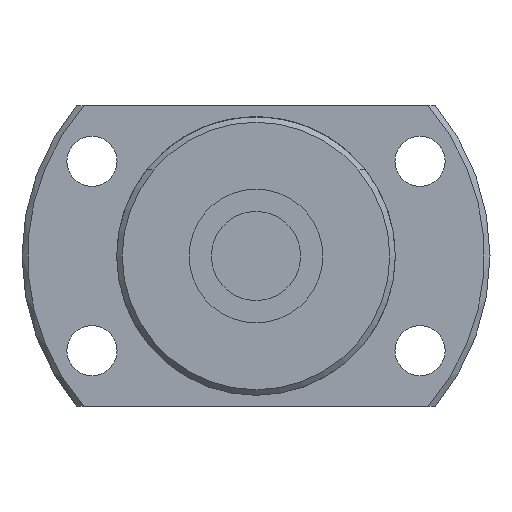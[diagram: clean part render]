
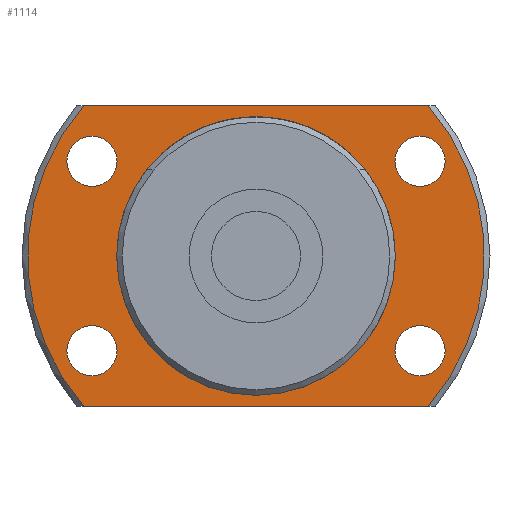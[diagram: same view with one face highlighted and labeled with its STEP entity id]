
A CAD part, left-side view. The second image highlights one B-rep face of the part: STEP entity #1114.
In plain terms, the highlighted planar face has unit normal (-1, 0, 0).
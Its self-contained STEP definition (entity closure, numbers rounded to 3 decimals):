
#93=LINE('',#1901,#163);
#94=LINE('',#1905,#164);
#163=VECTOR('',#1533,1000.);
#164=VECTOR('',#1536,1000.);
#331=ORIENTED_EDGE('',*,*,#576,.T.);
#332=ORIENTED_EDGE('',*,*,#577,.T.);
#333=ORIENTED_EDGE('',*,*,#578,.T.);
#334=ORIENTED_EDGE('',*,*,#579,.T.);
#335=ORIENTED_EDGE('',*,*,#565,.F.);
#336=ORIENTED_EDGE('',*,*,#580,.F.);
#337=ORIENTED_EDGE('',*,*,#581,.F.);
#338=ORIENTED_EDGE('',*,*,#582,.F.);
#339=ORIENTED_EDGE('',*,*,#559,.T.);
#559=EDGE_CURVE('',#693,#693,#781,.T.);
#565=EDGE_CURVE('',#698,#699,#784,.T.);
#576=EDGE_CURVE('',#708,#708,#790,.T.);
#577=EDGE_CURVE('',#709,#709,#791,.T.);
#578=EDGE_CURVE('',#710,#710,#792,.T.);
#579=EDGE_CURVE('',#711,#711,#793,.T.);
#580=EDGE_CURVE('',#712,#698,#93,.T.);
#581=EDGE_CURVE('',#713,#712,#794,.T.);
#582=EDGE_CURVE('',#699,#713,#94,.T.);
#693=VERTEX_POINT('',#1844);
#698=VERTEX_POINT('',#1858);
#699=VERTEX_POINT('',#1860);
#708=VERTEX_POINT('',#1894);
#709=VERTEX_POINT('',#1896);
#710=VERTEX_POINT('',#1898);
#711=VERTEX_POINT('',#1900);
#712=VERTEX_POINT('',#1902);
#713=VERTEX_POINT('',#1904);
#781=CIRCLE('',#1253,12.25);
#784=CIRCLE('',#1257,20.5);
#790=CIRCLE('',#1268,2.25);
#791=CIRCLE('',#1269,2.25);
#792=CIRCLE('',#1270,2.25);
#793=CIRCLE('',#1271,2.25);
#794=CIRCLE('',#1272,20.5);
#864=EDGE_LOOP('',(#331));
#865=EDGE_LOOP('',(#332));
#866=EDGE_LOOP('',(#333));
#867=EDGE_LOOP('',(#334));
#868=EDGE_LOOP('',(#335,#336,#337,#338));
#869=EDGE_LOOP('',(#339));
#978=FACE_BOUND('',#864,.T.);
#979=FACE_BOUND('',#865,.T.);
#980=FACE_BOUND('',#866,.T.);
#981=FACE_BOUND('',#867,.T.);
#982=FACE_BOUND('',#868,.T.);
#983=FACE_BOUND('',#869,.T.);
#1047=PLANE('',#1267);
#1114=ADVANCED_FACE('',(#978,#979,#980,#981,#982,#983),#1047,.F.);
#1253=AXIS2_PLACEMENT_3D('',#1843,#1491,#1492);
#1257=AXIS2_PLACEMENT_3D('',#1859,#1501,#1502);
#1267=AXIS2_PLACEMENT_3D('',#1892,#1523,#1524);
#1268=AXIS2_PLACEMENT_3D('',#1893,#1525,#1526);
#1269=AXIS2_PLACEMENT_3D('',#1895,#1527,#1528);
#1270=AXIS2_PLACEMENT_3D('',#1897,#1529,#1530);
#1271=AXIS2_PLACEMENT_3D('',#1899,#1531,#1532);
#1272=AXIS2_PLACEMENT_3D('',#1903,#1534,#1535);
#1491=DIRECTION('',(1.,0.,0.));
#1492=DIRECTION('',(0.,0.,-1.));
#1501=DIRECTION('',(1.,0.,0.));
#1502=DIRECTION('',(0.,0.,-1.));
#1523=DIRECTION('',(1.,0.,0.));
#1524=DIRECTION('',(0.,0.,-1.));
#1525=DIRECTION('',(1.,0.,0.));
#1526=DIRECTION('',(0.,0.,-1.));
#1527=DIRECTION('',(1.,0.,0.));
#1528=DIRECTION('',(0.,0.,-1.));
#1529=DIRECTION('',(1.,0.,0.));
#1530=DIRECTION('',(0.,0.,-1.));
#1531=DIRECTION('',(1.,0.,0.));
#1532=DIRECTION('',(0.,0.,-1.));
#1533=DIRECTION('',(0.,1.,0.));
#1534=DIRECTION('',(1.,0.,0.));
#1535=DIRECTION('',(0.,0.,-1.));
#1536=DIRECTION('',(0.,-1.,0.));
#1843=CARTESIAN_POINT('',(19.,0.,0.));
#1844=CARTESIAN_POINT('',(19.,0.,-12.25));
#1858=CARTESIAN_POINT('',(19.,15.427,-13.5));
#1859=CARTESIAN_POINT('',(19.,0.,0.));
#1860=CARTESIAN_POINT('',(19.,15.427,13.5));
#1892=CARTESIAN_POINT('',(19.,12.25,0.));
#1893=CARTESIAN_POINT('',(19.,-14.722,-8.5));
#1894=CARTESIAN_POINT('',(19.,-14.722,-10.75));
#1895=CARTESIAN_POINT('',(19.,-14.722,8.5));
#1896=CARTESIAN_POINT('',(19.,-14.722,6.25));
#1897=CARTESIAN_POINT('',(19.,14.722,-8.5));
#1898=CARTESIAN_POINT('',(19.,14.722,-10.75));
#1899=CARTESIAN_POINT('',(19.,14.722,8.5));
#1900=CARTESIAN_POINT('',(19.,14.722,6.25));
#1901=CARTESIAN_POINT('',(19.,-26.,-13.5));
#1902=CARTESIAN_POINT('',(19.,-15.427,-13.5));
#1903=CARTESIAN_POINT('',(19.,0.,0.));
#1904=CARTESIAN_POINT('',(19.,-15.427,13.5));
#1905=CARTESIAN_POINT('',(19.,26.,13.5));
